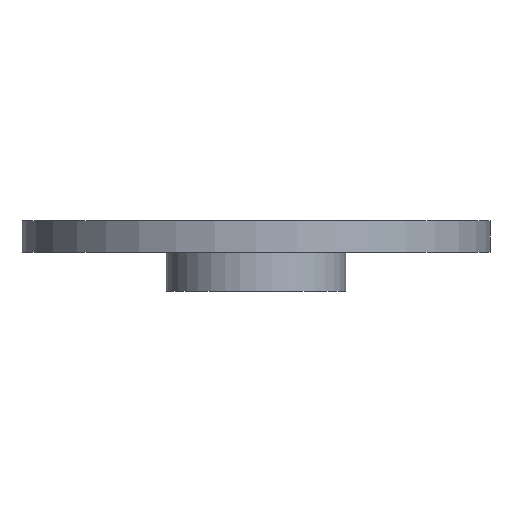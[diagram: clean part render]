
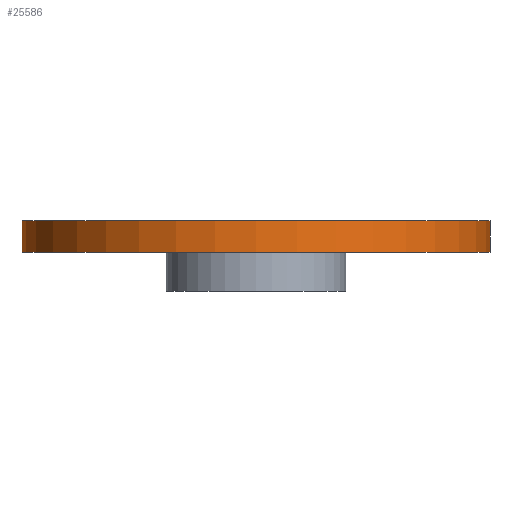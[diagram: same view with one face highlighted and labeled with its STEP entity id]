
A CAD part, front view. The second image highlights one B-rep face of the part: STEP entity #25586.
In plain terms, the highlighted cylindrical face has radius 60 mm (diameter 120 mm), a full revolution.
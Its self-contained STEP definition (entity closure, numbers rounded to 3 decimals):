
#289 = PLANE('',#290);
#290 = AXIS2_PLACEMENT_3D('',#291,#292,#293);
#291 = CARTESIAN_POINT('',(0.,0.,66.));
#292 = DIRECTION('',(0.,0.,1.));
#293 = DIRECTION('',(1.,0.,0.));
#383 = PLANE('',#384);
#384 = AXIS2_PLACEMENT_3D('',#385,#386,#387);
#385 = CARTESIAN_POINT('',(0.,0.,74.));
#386 = DIRECTION('',(0.,0.,1.));
#387 = DIRECTION('',(1.,0.,0.));
#685 = EDGE_CURVE('',#686,#686,#688,.T.);
#686 = VERTEX_POINT('',#687);
#687 = CARTESIAN_POINT('',(60.,0.,74.));
#688 = SURFACE_CURVE('',#689,(#694,#701),.PCURVE_S1.);
#689 = CIRCLE('',#690,60.);
#690 = AXIS2_PLACEMENT_3D('',#691,#692,#693);
#691 = CARTESIAN_POINT('',(0.,0.,74.));
#692 = DIRECTION('',(0.,0.,1.));
#693 = DIRECTION('',(1.,0.,0.));
#694 = PCURVE('',#383,#695);
#695 = DEFINITIONAL_REPRESENTATION('',(#696),#700);
#696 = CIRCLE('',#697,60.);
#697 = AXIS2_PLACEMENT_2D('',#698,#699);
#698 = CARTESIAN_POINT('',(0.,0.));
#699 = DIRECTION('',(1.,0.));
#700 = ( GEOMETRIC_REPRESENTATION_CONTEXT(2) 
PARAMETRIC_REPRESENTATION_CONTEXT() REPRESENTATION_CONTEXT('2D SPACE',''
  ) );
#701 = PCURVE('',#702,#707);
#702 = CYLINDRICAL_SURFACE('',#703,60.);
#703 = AXIS2_PLACEMENT_3D('',#704,#705,#706);
#704 = CARTESIAN_POINT('',(0.,0.,66.));
#705 = DIRECTION('',(0.,0.,1.));
#706 = DIRECTION('',(1.,0.,0.));
#707 = DEFINITIONAL_REPRESENTATION('',(#708),#712);
#708 = LINE('',#709,#710);
#709 = CARTESIAN_POINT('',(0.,8.));
#710 = VECTOR('',#711,1.);
#711 = DIRECTION('',(1.,0.));
#712 = ( GEOMETRIC_REPRESENTATION_CONTEXT(2) 
PARAMETRIC_REPRESENTATION_CONTEXT() REPRESENTATION_CONTEXT('2D SPACE',''
  ) );
#21112 = EDGE_CURVE('',#21113,#21113,#21115,.T.);
#21113 = VERTEX_POINT('',#21114);
#21114 = CARTESIAN_POINT('',(60.,0.,66.));
#21115 = SURFACE_CURVE('',#21116,(#21121,#21128),.PCURVE_S1.);
#21116 = CIRCLE('',#21117,60.);
#21117 = AXIS2_PLACEMENT_3D('',#21118,#21119,#21120);
#21118 = CARTESIAN_POINT('',(0.,0.,66.));
#21119 = DIRECTION('',(0.,0.,1.));
#21120 = DIRECTION('',(1.,0.,0.));
#21121 = PCURVE('',#289,#21122);
#21122 = DEFINITIONAL_REPRESENTATION('',(#21123),#21127);
#21123 = CIRCLE('',#21124,60.);
#21124 = AXIS2_PLACEMENT_2D('',#21125,#21126);
#21125 = CARTESIAN_POINT('',(0.,0.));
#21126 = DIRECTION('',(1.,0.));
#21127 = ( GEOMETRIC_REPRESENTATION_CONTEXT(2) 
PARAMETRIC_REPRESENTATION_CONTEXT() REPRESENTATION_CONTEXT('2D SPACE',''
  ) );
#21128 = PCURVE('',#702,#21129);
#21129 = DEFINITIONAL_REPRESENTATION('',(#21130),#21134);
#21130 = LINE('',#21131,#21132);
#21131 = CARTESIAN_POINT('',(0.,0.));
#21132 = VECTOR('',#21133,1.);
#21133 = DIRECTION('',(1.,0.));
#21134 = ( GEOMETRIC_REPRESENTATION_CONTEXT(2) 
PARAMETRIC_REPRESENTATION_CONTEXT() REPRESENTATION_CONTEXT('2D SPACE',''
  ) );
#25586 = ADVANCED_FACE('',(#25587),#702,.T.);
#25587 = FACE_BOUND('',#25588,.T.);
#25588 = EDGE_LOOP('',(#25589,#25590,#25611,#25612));
#25589 = ORIENTED_EDGE('',*,*,#685,.F.);
#25590 = ORIENTED_EDGE('',*,*,#25591,.F.);
#25591 = EDGE_CURVE('',#21113,#686,#25592,.T.);
#25592 = SEAM_CURVE('',#25593,(#25597,#25604),.PCURVE_S1.);
#25593 = LINE('',#25594,#25595);
#25594 = CARTESIAN_POINT('',(60.,0.,66.));
#25595 = VECTOR('',#25596,1.);
#25596 = DIRECTION('',(0.,0.,1.));
#25597 = PCURVE('',#702,#25598);
#25598 = DEFINITIONAL_REPRESENTATION('',(#25599),#25603);
#25599 = LINE('',#25600,#25601);
#25600 = CARTESIAN_POINT('',(6.283,-0.));
#25601 = VECTOR('',#25602,1.);
#25602 = DIRECTION('',(0.,1.));
#25603 = ( GEOMETRIC_REPRESENTATION_CONTEXT(2) 
PARAMETRIC_REPRESENTATION_CONTEXT() REPRESENTATION_CONTEXT('2D SPACE',''
  ) );
#25604 = PCURVE('',#702,#25605);
#25605 = DEFINITIONAL_REPRESENTATION('',(#25606),#25610);
#25606 = LINE('',#25607,#25608);
#25607 = CARTESIAN_POINT('',(0.,-0.));
#25608 = VECTOR('',#25609,1.);
#25609 = DIRECTION('',(0.,1.));
#25610 = ( GEOMETRIC_REPRESENTATION_CONTEXT(2) 
PARAMETRIC_REPRESENTATION_CONTEXT() REPRESENTATION_CONTEXT('2D SPACE',''
  ) );
#25611 = ORIENTED_EDGE('',*,*,#21112,.T.);
#25612 = ORIENTED_EDGE('',*,*,#25591,.T.);
